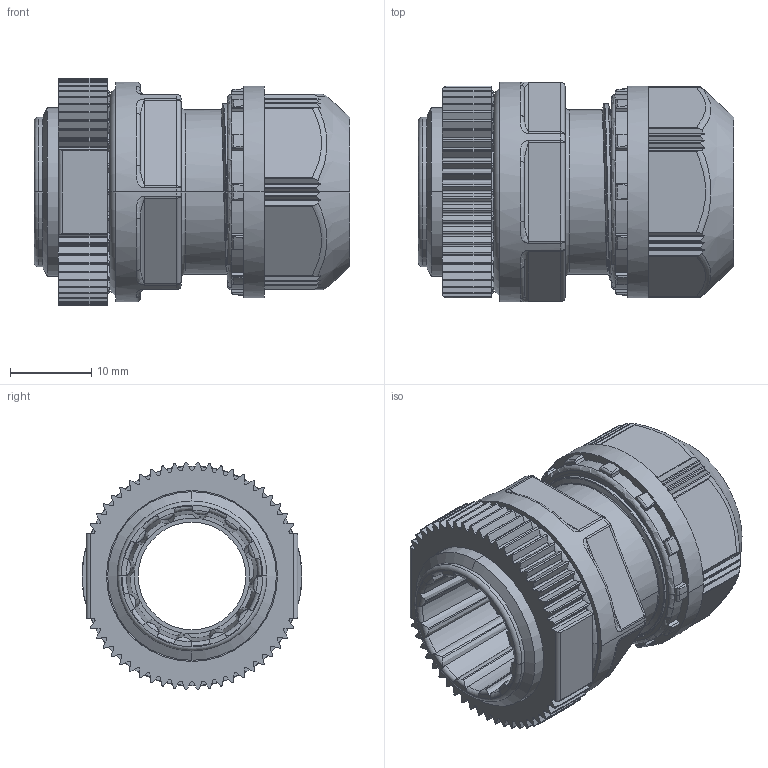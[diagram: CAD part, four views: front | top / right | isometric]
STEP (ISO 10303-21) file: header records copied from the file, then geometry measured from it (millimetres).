
FILE_DESCRIPTION(('CoCreate Modeling STEP Export'),'2;1');
FILE_NAME('OA-W1613_公開データ.stp','2011-07-15T10:56:52',(''),(''),'CoCreate Modeling STEP processor for AP214 (Solid Model)','CoCreate Modeling 17.00A 17-Jun-2010 (C) Parametric Technology GmbH','');
FILE_SCHEMA(('AUTOMOTIVE_DESIGN { 1 0 10303 214 1 1 1 1 }'));
Length unit declared in the file: millimetre
Products named in the file (5): OA-W1613; ゴムブッシュ; ロックナット
Assembly tree (2 placements, depth 2):
  OA-W1613
    OA-W1613
  ゴムブッシュ
  ロックナット
    ロックナット
Bounding box: 38.7 x 27 x 27.96 mm (x, y, z)
Volume: 11647.7 mm3; surface area: 10088.1 mm2
Topology: 3 solids, 3 shells, 1063 faces, 2901 edges, 1787 vertices
Faces by surface type: cylinder 453, plane 345, bspline 78, torus 70, sphere 69, cone 48
Entity records: 50604 total; most frequent: CARTESIAN_POINT 26512, ORIENTED_EDGE 5664, DIRECTION 4175, EDGE_CURVE 2832, VERTEX_POINT 1787, AXIS2_PLACEMENT_3D 1497, VECTOR 1181, LINE 1181
